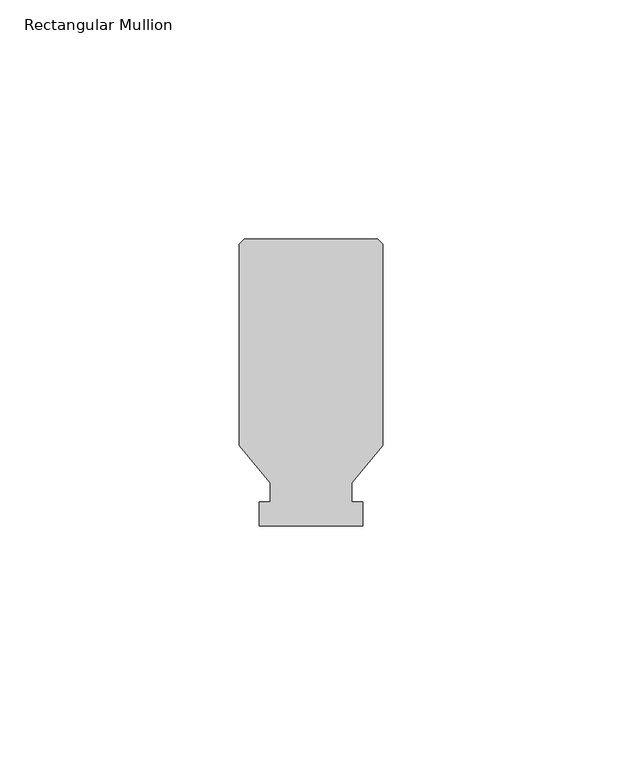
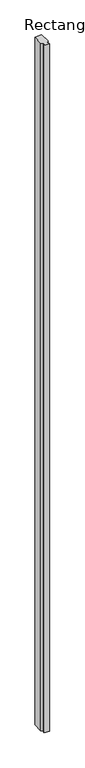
"""IFC4 building model written with IfcOpenShell, lengths in millimetres: member geometry, Rectangular Mullion : Batten_Timber_Modinex_Austratus_Linear_Fin_30x60_AlaskanYellowCedar."""

import ifcopenshell
import ifcopenshell.guid

model = None  # the IFC model being written
_history = None  # IfcOwnerHistory: only IFC2X3 demands one
_inside = {}  # id of a spatial element -> (the spatial element, [elements in it])
_under = {}  # id of a project, library or spatial element -> (it, [spatial elements below it])
_declared = {}  # id of a project -> (the project, [libraries it declares])
_typed = {}  # id of a type object -> (the type object, [elements of that type])
_made_of = {}  # id of a material, layer set ... -> (it, [elements and type objects made of it])


def new_model(schema):
    """Start an empty IFC model of exactly this schema.

    Asked for "IFC4X3", IfcOpenShell would pick the latest addendum, in which some entities
    have other attributes; the version numbers below select the first issue.
    IFC2X3 requires an IfcOwnerHistory on every rooted entity: one is made here for all.
    """
    global model, _history
    if schema == "IFC4X3":
        model = ifcopenshell.file(schema_version=(4, 3, 0, 0))
    else:
        model = ifcopenshell.file(schema=schema)
    _inside.clear()
    _under.clear()
    _declared.clear()
    _typed.clear()
    _made_of.clear()
    _history = None
    if model.schema == "IFC2X3":
        org = make("IfcOrganization", Name="unknown")
        user = make(
            "IfcPersonAndOrganization",
            ThePerson=make("IfcPerson", FamilyName="unknown"),
            TheOrganization=org,
        )
        app = make(
            "IfcApplication",
            ApplicationDeveloper=org,
            Version="unknown",
            ApplicationFullName="unknown",
            ApplicationIdentifier="unknown",
        )
        _history = make(
            "IfcOwnerHistory",
            OwningUser=user,
            OwningApplication=app,
            ChangeAction="ADDED",
            CreationDate=0,
        )
    return model


def make(cls, **values):
    """One entity of the class cls with the attributes given. An attribute that is None is left unset."""
    return model.create_entity(
        cls, **{name: value for name, value in values.items() if value is not None}
    )


def rooted(cls, **values):
    """An entity with a GlobalId (a new one), such as an element, a storey or a relation."""
    return make(cls, GlobalId=ifcopenshell.guid.new(), OwnerHistory=_history, **values)


def si_unit(unit_type, name, prefix=None):
    """IfcSIUnit, for example si_unit("LENGTHUNIT", "METRE", prefix="MILLI")."""
    return make("IfcSIUnit", UnitType=unit_type, Prefix=prefix, Name=name)


def assignment(units):
    """IfcUnitAssignment: the units of a project."""
    return None if units is None else make("IfcUnitAssignment", Units=units)


def point(xyz):
    """IfcCartesianPoint."""
    return None if xyz is None else make("IfcCartesianPoint", Coordinates=xyz)


def direction(xyz):
    """IfcDirection."""
    return None if xyz is None else make("IfcDirection", DirectionRatios=xyz)


def frame(location, z_axis=None, x_axis=None):
    """IfcAxis2Placement3D, a coordinate frame: its origin and axes. An axis left out is left unset."""
    return make(
        "IfcAxis2Placement3D",
        Location=point(location),
        Axis=direction(z_axis),
        RefDirection=direction(x_axis),
    )


def origin():
    """The frame at (0, 0, 0) with its axes left unset."""
    return frame((0.0, 0.0, 0.0))


def place(relative_to, where):
    """IfcLocalPlacement: puts the frame where relative to a parent placement (None: the world)."""
    return make(
        "IfcLocalPlacement", PlacementRelTo=relative_to, RelativePlacement=where
    )


def context(
    kind, dimensions, precision=None, world=None, true_north=None, identifier=None
):
    """IfcGeometricRepresentationContext, for example the 3D "Model" context."""
    return make(
        "IfcGeometricRepresentationContext",
        ContextIdentifier=identifier,
        ContextType=kind,
        CoordinateSpaceDimension=dimensions,
        Precision=precision,
        WorldCoordinateSystem=world,
        TrueNorth=true_north,
    )


def project(units=None, contexts=None):
    """IfcProject with its units and contexts."""
    return rooted(
        "IfcProject",
        Name="project",
        RepresentationContexts=contexts,
        UnitsInContext=assignment(units),
    )


def spatial(cls, under=None, at=None, **own):
    """A site, building, storey or space (cls), placed at a placement, below another one or the project."""
    s = rooted(cls, ObjectPlacement=at, **own)
    if under is not None:
        _under.setdefault(under.id(), (under, []))[1].append(s)
    return s


def polyline(points):
    """IfcPolyline through the points."""
    return make("IfcPolyline", Points=[point(p) for p in points])


def outline(outer, holes=None, kind="AREA"):
    """IfcArbitraryClosedProfileDef: a profile drawn as a closed curve; with holes, ...WithVoids."""
    if holes is None:
        return make("IfcArbitraryClosedProfileDef", ProfileType=kind, OuterCurve=outer)
    return make(
        "IfcArbitraryProfileDefWithVoids",
        ProfileType=kind,
        OuterCurve=outer,
        InnerCurves=holes,
    )


def extrude(swept, where, along, depth):
    """IfcExtrudedAreaSolid: the profile swept, set in the frame where, extruded along a direction by depth."""
    return make(
        "IfcExtrudedAreaSolid",
        SweptArea=swept,
        Position=where,
        ExtrudedDirection=direction(along),
        Depth=depth,
    )


def shape(context_of_items, identifier, shape_type, items):
    """IfcShapeRepresentation: the items that make up one representation, for example the "Body"."""
    return make(
        "IfcShapeRepresentation",
        ContextOfItems=context_of_items,
        RepresentationIdentifier=identifier,
        RepresentationType=shape_type,
        Items=items,
    )


def source(mapping_origin, context_of_items, identifier, shape_type, items):
    """IfcRepresentationMap: a shape defined once, which mapped items show again and again."""
    return make(
        "IfcRepresentationMap",
        MappingOrigin=mapping_origin,
        MappedRepresentation=shape(context_of_items, identifier, shape_type, items),
    )


def transform(
    local_origin,
    x_axis=None,
    y_axis=None,
    z_axis=None,
    scale=None,
    scale2=None,
    scale3=None,
    uniform=True,
):
    """IfcCartesianTransformationOperator3D, or its non-uniform kind. x_axis, y_axis, z_axis: its Axis1, 2, 3."""
    if uniform:
        return make(
            "IfcCartesianTransformationOperator3D",
            Axis1=direction(x_axis),
            Axis2=direction(y_axis),
            LocalOrigin=point(local_origin),
            Scale=scale,
            Axis3=direction(z_axis),
        )
    return make(
        "IfcCartesianTransformationOperator3DnonUniform",
        Axis1=direction(x_axis),
        Axis2=direction(y_axis),
        LocalOrigin=point(local_origin),
        Scale=scale,
        Axis3=direction(z_axis),
        Scale2=scale2,
        Scale3=scale3,
    )


def mapped(mapping_source, mapping_target):
    """IfcMappedItem: shows the shape of a source again, moved by a transform."""
    return make(
        "IfcMappedItem", MappingSource=mapping_source, MappingTarget=mapping_target
    )


def made_of(thing, what):
    """Note that an element or type object is made of a material, layer set ...; save() writes the relation."""
    if what is not None:
        _made_of.setdefault(what.id(), (what, []))[1].append(thing)
    return thing


def element(
    cls,
    number,
    at=None,
    inside=None,
    cuts=None,
    type_object=None,
    material=None,
    context=None,
    identifier="Body",
    shape_type=None,
    held_by="IfcProductDefinitionShape",
    body=None,
    shapes=None,
    **own,
):
    """One element of the class cls, such as IfcWall. Its Tag is "e" and its number.

    at: its placement. inside: the storey or other place that contains it. cuts: it is an
    opening in that element (IfcRelVoidsElement). A single representation is given by context,
    identifier, shape_type and body (its items); several are given by shapes. held_by: the class
    of the entity that holds the representations. save() writes the other relations.
    """
    e = rooted(cls, Tag="e%d" % number, ObjectPlacement=at, **own)
    if body is not None:
        shapes = [shape(context, identifier, shape_type, body)]
    if shapes is not None:
        e.Representation = make(held_by, Representations=shapes)
    if inside is not None:
        _inside.setdefault(inside.id(), (inside, []))[1].append(e)
    if cuts is not None:
        rooted(
            "IfcRelVoidsElement", RelatingBuildingElement=cuts, RelatedOpeningElement=e
        )
    if type_object is not None:
        _typed.setdefault(type_object.id(), (type_object, []))[1].append(e)
    return made_of(e, material)


def aggregate(whole, parts):
    """IfcRelAggregates: a whole, such as a stair, and the parts it consists of."""
    return rooted("IfcRelAggregates", RelatingObject=whole, RelatedObjects=parts)


def save(model, path):
    """Write the relations noted so far, then the file.

    IfcRelAggregates (storeys below a building ...), IfcRelContainedInSpatialStructure (elements
    in a storey), IfcRelDefinesByType, IfcRelAssociatesMaterial and IfcRelDeclares: one each for
    every whole, place, type object, material and project.
    """
    for whole, parts in _under.values():
        aggregate(whole, parts)
    for where, things in _inside.values():
        rooted(
            "IfcRelContainedInSpatialStructure",
            RelatedElements=things,
            RelatingStructure=where,
        )
    for kind, things in _typed.values():
        rooted("IfcRelDefinesByType", RelatedObjects=things, RelatingType=kind)
    for what, things in _made_of.values():
        rooted("IfcRelAssociatesMaterial", RelatedObjects=things, RelatingMaterial=what)
    for by, libraries in _declared.values():
        rooted("IfcRelDeclares", RelatingContext=by, RelatedDefinitions=libraries)
    model.write(path)


def rectangular_mullion_8de1b530(model_context):
    return source(origin(), model_context, "Body", "SweptSolid", [
        extrude(outline(polyline([(-15.0, 16.8079815), (-15.0, 59.0), (-14.0, 60.0), (14.0, 60.0), (15.0, 59.0), (15.0, 16.8079815), (8.5, 9.0), (8.5, 5.0), (10.812195, 5.0), (10.812195, 0.0), (-10.812195, 0.0), (-10.812195, 5.0), (-8.5, 5.0), (-8.5, 9.0), (-15.0, 16.8079815)])), frame((0.0, 0.0, -3000.0), z_axis=(0.0, 0.0, 1.0), x_axis=(1.0, 0.0, 0.0)), (0.0, 0.0, 1.0), 3000.0),
    ])


if __name__ == "__main__":
    model = new_model("IFC4")
    model_context = context("Model", 3, world=origin())
    ifc_project = project(units=[si_unit("LENGTHUNIT", "METRE", prefix="MILLI")], contexts=[model_context])
    site = spatial("IfcSite", under=ifc_project)
    building = spatial("IfcBuilding", under=site)
    placement = place(None, origin())
    rectangular_mullion_shape = rectangular_mullion_8de1b530(model_context)
    element("IfcMember", 1, ObjectType="Rectangular Mullion : Batten_Timber_Modinex_Austratus_Linear_Fin_30x60_AlaskanYellowCedar", at=placement, inside=building, context=model_context, shape_type="MappedRepresentation", body=[
        mapped(rectangular_mullion_shape, transform((0.0, 0.0, 0.0), x_axis=(1.0, 0.0, 0.0), y_axis=(0.0, 1.0, 0.0), z_axis=(0.0, 0.0, 1.0))),
    ])
    save(model, "model.ifc")
